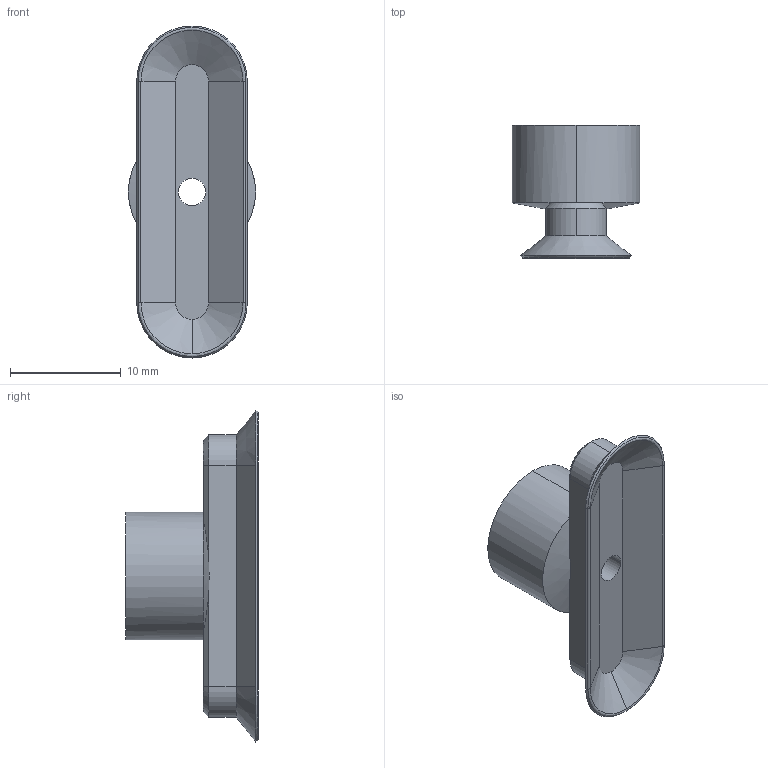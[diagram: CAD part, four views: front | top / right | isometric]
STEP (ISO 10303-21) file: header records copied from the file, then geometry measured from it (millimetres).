
FILE_DESCRIPTION (( 'STEP AP214' ), '1' );
FILE_NAME ('VS-PO1030.STEP', '2019-11-13T09:13:52', ( '微软用户' ), ( '微软中国' ), 'SwSTEP 2.0', 'SolidWorks 2016', '' );
FILE_SCHEMA (( 'AUTOMOTIVE_DESIGN' ));
Length unit declared in the file: millimetre
Products named in the file (1): VS-PO1030
Bounding box: 11.5 x 12 x 30 mm (x, y, z)
Volume: 1039.6 mm3; surface area: 1302.4 mm2
Topology: 1 solids, 1 shells, 49 faces, 108 edges, 64 vertices
Faces by surface type: plane 19, cylinder 15, cone 13, bspline 2
Entity records: 1416 total; most frequent: CARTESIAN_POINT 280, DIRECTION 248, ORIENTED_EDGE 216, EDGE_CURVE 108, AXIS2_PLACEMENT_3D 98, VERTEX_POINT 64, EDGE_LOOP 54, VECTOR 52
